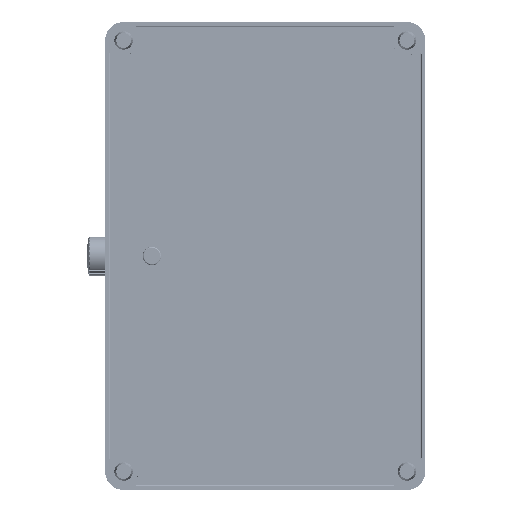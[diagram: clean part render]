
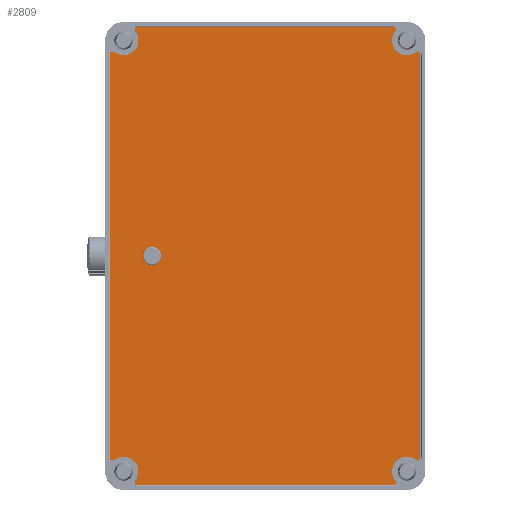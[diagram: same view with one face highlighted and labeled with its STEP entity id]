
A CAD part, top view. The second image highlights one B-rep face of the part: STEP entity #2809.
In plain terms, the highlighted planar face has unit normal (0, 0, 1).
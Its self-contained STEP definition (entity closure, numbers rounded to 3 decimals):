
#1429=DIRECTION('',(0.,1.,0.));
#1430=VECTOR('',#1429,330.472);
#1431=CARTESIAN_POINT('',(-406.905,494.301,344.));
#1432=LINE('',#1431,#1430);
#1476=CARTESIAN_POINT('',(-429.905,843.537,344.));
#1477=DIRECTION('',(0.,0.,-1.));
#1478=DIRECTION('',(0.745,0.667,0.));
#1479=AXIS2_PLACEMENT_3D('',#1476,#1477,#1478);
#1481=CARTESIAN_POINT('',(-429.905,843.537,344.));
#1482=DIRECTION('',(0.,0.,-1.));
#1483=DIRECTION('',(1.,0.,0.));
#1484=AXIS2_PLACEMENT_3D('',#1481,#1482,#1483);
#1486=CARTESIAN_POINT('',(-417.905,834.537,344.));
#1487=DIRECTION('',(0.,0.,1.));
#1488=DIRECTION('',(-0.8,0.6,0.));
#1489=AXIS2_PLACEMENT_3D('',#1486,#1487,#1488);
#1491=CARTESIAN_POINT('',(-417.905,834.537,344.));
#1492=DIRECTION('',(0.,0.,1.));
#1493=DIRECTION('',(-1.,0.,0.));
#1494=AXIS2_PLACEMENT_3D('',#1491,#1492,#1493);
#1496=CARTESIAN_POINT('',(-408.905,822.537,344.));
#1497=DIRECTION('',(0.,0.,-1.));
#1498=DIRECTION('',(-0.6,0.8,0.));
#1499=AXIS2_PLACEMENT_3D('',#1496,#1497,#1498);
#1501=CARTESIAN_POINT('',(-408.905,496.537,344.));
#1502=DIRECTION('',(0.,0.,-1.));
#1503=DIRECTION('',(0.667,-0.745,0.));
#1504=AXIS2_PLACEMENT_3D('',#1501,#1502,#1503);
#1506=CARTESIAN_POINT('',(-417.905,484.537,344.));
#1507=DIRECTION('',(0.,0.,1.));
#1508=DIRECTION('',(0.6,0.8,0.));
#1509=AXIS2_PLACEMENT_3D('',#1506,#1507,#1508);
#1511=CARTESIAN_POINT('',(-417.905,484.537,344.));
#1512=DIRECTION('',(0.,0.,1.));
#1513=DIRECTION('',(-1.,0.,0.));
#1514=AXIS2_PLACEMENT_3D('',#1511,#1512,#1513);
#1516=CARTESIAN_POINT('',(-429.905,475.537,344.));
#1517=DIRECTION('',(0.,0.,-1.));
#1518=DIRECTION('',(0.8,0.6,0.));
#1519=AXIS2_PLACEMENT_3D('',#1516,#1517,#1518);
#1521=CARTESIAN_POINT('',(-429.905,475.537,344.));
#1522=DIRECTION('',(0.,0.,-1.));
#1523=DIRECTION('',(1.,0.,0.));
#1524=AXIS2_PLACEMENT_3D('',#1521,#1522,#1523);
#1526=CARTESIAN_POINT('',(-635.905,475.537,344.));
#1527=DIRECTION('',(0.,0.,-1.));
#1528=DIRECTION('',(-0.745,-0.667,0.));
#1529=AXIS2_PLACEMENT_3D('',#1526,#1527,#1528);
#1531=CARTESIAN_POINT('',(-635.905,475.537,344.));
#1532=DIRECTION('',(0.,0.,-1.));
#1533=DIRECTION('',(-1.,0.,0.));
#1534=AXIS2_PLACEMENT_3D('',#1531,#1532,#1533);
#1536=CARTESIAN_POINT('',(-647.905,484.537,344.));
#1537=DIRECTION('',(0.,0.,1.));
#1538=DIRECTION('',(0.8,-0.6,0.));
#1539=AXIS2_PLACEMENT_3D('',#1536,#1537,#1538);
#1541=CARTESIAN_POINT('',(-647.905,484.537,344.));
#1542=DIRECTION('',(0.,0.,1.));
#1543=DIRECTION('',(1.,0.,0.));
#1544=AXIS2_PLACEMENT_3D('',#1541,#1542,#1543);
#1546=CARTESIAN_POINT('',(-656.905,496.537,344.));
#1547=DIRECTION('',(0.,0.,-1.));
#1548=DIRECTION('',(0.6,-0.8,0.));
#1549=AXIS2_PLACEMENT_3D('',#1546,#1547,#1548);
#1551=CARTESIAN_POINT('',(-656.905,822.537,344.));
#1552=DIRECTION('',(0.,0.,-1.));
#1553=DIRECTION('',(-0.667,0.745,0.));
#1554=AXIS2_PLACEMENT_3D('',#1551,#1552,#1553);
#1556=CARTESIAN_POINT('',(-647.905,834.537,344.));
#1557=DIRECTION('',(0.,0.,1.));
#1558=DIRECTION('',(-0.6,-0.8,0.));
#1559=AXIS2_PLACEMENT_3D('',#1556,#1557,#1558);
#1561=CARTESIAN_POINT('',(-647.905,834.537,344.));
#1562=DIRECTION('',(0.,0.,1.));
#1563=DIRECTION('',(1.,0.,0.));
#1564=AXIS2_PLACEMENT_3D('',#1561,#1562,#1563);
#1566=CARTESIAN_POINT('',(-635.905,843.537,344.));
#1567=DIRECTION('',(0.,0.,-1.));
#1568=DIRECTION('',(-0.8,-0.6,0.));
#1569=AXIS2_PLACEMENT_3D('',#1566,#1567,#1568);
#1571=CARTESIAN_POINT('',(-635.905,843.537,344.));
#1572=DIRECTION('',(0.,0.,-1.));
#1573=DIRECTION('',(-1.,0.,0.));
#1574=AXIS2_PLACEMENT_3D('',#1571,#1572,#1573);
#1576=CARTESIAN_POINT('',(-624.905,659.537,344.));
#1577=DIRECTION('',(0.,0.,1.));
#1578=DIRECTION('',(-1.,0.,0.));
#1579=AXIS2_PLACEMENT_3D('',#1576,#1577,#1578);
#1581=CARTESIAN_POINT('',(-624.905,659.537,344.));
#1582=DIRECTION('',(0.,0.,1.));
#1583=DIRECTION('',(1.,0.,0.));
#1584=AXIS2_PLACEMENT_3D('',#1581,#1582,#1583);
#1590=DIRECTION('',(-1.,0.,0.));
#1591=VECTOR('',#1590,210.472);
#1592=CARTESIAN_POINT('',(-427.669,845.537,344.));
#1593=LINE('',#1592,#1591);
#1747=DIRECTION('',(0.,-1.,0.));
#1748=VECTOR('',#1747,330.472);
#1749=CARTESIAN_POINT('',(-658.905,824.773,344.));
#1750=LINE('',#1749,#1748);
#1849=DIRECTION('',(1.,0.,0.));
#1850=VECTOR('',#1849,210.472);
#1851=CARTESIAN_POINT('',(-638.141,473.537,344.));
#1852=LINE('',#1851,#1850);
#2165=CARTESIAN_POINT('',(-406.905,494.301,344.));
#2166=CARTESIAN_POINT('',(-406.905,824.773,344.));
#2167=VERTEX_POINT('',#2165);
#2168=VERTEX_POINT('',#2166);
#2169=CARTESIAN_POINT('',(-427.669,845.537,344.));
#2170=CARTESIAN_POINT('',(-638.141,845.537,344.));
#2171=VERTEX_POINT('',#2169);
#2172=VERTEX_POINT('',#2170);
#2173=CARTESIAN_POINT('',(-426.905,843.537,344.));
#2174=VERTEX_POINT('',#2173);
#2175=CARTESIAN_POINT('',(-427.505,841.737,344.));
#2176=VERTEX_POINT('',#2175);
#2177=CARTESIAN_POINT('',(-429.905,834.537,344.));
#2178=VERTEX_POINT('',#2177);
#2179=CARTESIAN_POINT('',(-410.705,824.937,344.));
#2180=VERTEX_POINT('',#2179);
#2181=CARTESIAN_POINT('',(-410.705,494.137,344.));
#2182=VERTEX_POINT('',#2181);
#2183=CARTESIAN_POINT('',(-429.905,484.537,344.));
#2184=VERTEX_POINT('',#2183);
#2185=CARTESIAN_POINT('',(-427.505,477.337,344.));
#2186=VERTEX_POINT('',#2185);
#2187=CARTESIAN_POINT('',(-426.905,475.537,344.));
#2188=VERTEX_POINT('',#2187);
#2189=CARTESIAN_POINT('',(-427.669,473.537,344.));
#2190=VERTEX_POINT('',#2189);
#2191=CARTESIAN_POINT('',(-638.141,473.537,344.));
#2192=VERTEX_POINT('',#2191);
#2193=CARTESIAN_POINT('',(-638.905,475.537,344.));
#2194=VERTEX_POINT('',#2193);
#2195=CARTESIAN_POINT('',(-638.305,477.337,344.));
#2196=VERTEX_POINT('',#2195);
#2197=CARTESIAN_POINT('',(-635.905,484.537,344.));
#2198=VERTEX_POINT('',#2197);
#2199=CARTESIAN_POINT('',(-655.105,494.137,344.));
#2200=VERTEX_POINT('',#2199);
#2201=CARTESIAN_POINT('',(-658.905,494.301,344.));
#2202=VERTEX_POINT('',#2201);
#2203=CARTESIAN_POINT('',(-658.905,824.773,344.));
#2204=VERTEX_POINT('',#2203);
#2205=CARTESIAN_POINT('',(-655.105,824.937,344.));
#2206=VERTEX_POINT('',#2205);
#2207=CARTESIAN_POINT('',(-635.905,834.537,344.));
#2208=VERTEX_POINT('',#2207);
#2209=CARTESIAN_POINT('',(-638.305,841.737,344.));
#2210=VERTEX_POINT('',#2209);
#2211=CARTESIAN_POINT('',(-638.905,843.537,344.));
#2212=VERTEX_POINT('',#2211);
#2213=CARTESIAN_POINT('',(-629.905,659.537,344.));
#2214=CARTESIAN_POINT('',(-619.905,659.537,344.));
#2215=VERTEX_POINT('',#2213);
#2216=VERTEX_POINT('',#2214);
#2749=CARTESIAN_POINT('',(-402.905,849.537,344.));
#2750=DIRECTION('',(0.,0.,1.));
#2751=DIRECTION('',(1.,0.,0.));
#2752=AXIS2_PLACEMENT_3D('',#2749,#2750,#2751);
#2753=PLANE('',#2752);
#2755=ORIENTED_EDGE('',*,*,#2754,.F.);
#2757=ORIENTED_EDGE('',*,*,#2756,.T.);
#2759=ORIENTED_EDGE('',*,*,#2758,.T.);
#2761=ORIENTED_EDGE('',*,*,#2760,.T.);
#2763=ORIENTED_EDGE('',*,*,#2762,.T.);
#2765=ORIENTED_EDGE('',*,*,#2764,.T.);
#2766=ORIENTED_EDGE('',*,*,#2739,.F.);
#2768=ORIENTED_EDGE('',*,*,#2767,.T.);
#2770=ORIENTED_EDGE('',*,*,#2769,.T.);
#2772=ORIENTED_EDGE('',*,*,#2771,.T.);
#2774=ORIENTED_EDGE('',*,*,#2773,.T.);
#2776=ORIENTED_EDGE('',*,*,#2775,.T.);
#2778=ORIENTED_EDGE('',*,*,#2777,.F.);
#2780=ORIENTED_EDGE('',*,*,#2779,.T.);
#2782=ORIENTED_EDGE('',*,*,#2781,.T.);
#2784=ORIENTED_EDGE('',*,*,#2783,.T.);
#2786=ORIENTED_EDGE('',*,*,#2785,.T.);
#2788=ORIENTED_EDGE('',*,*,#2787,.T.);
#2790=ORIENTED_EDGE('',*,*,#2789,.F.);
#2792=ORIENTED_EDGE('',*,*,#2791,.T.);
#2794=ORIENTED_EDGE('',*,*,#2793,.T.);
#2796=ORIENTED_EDGE('',*,*,#2795,.T.);
#2798=ORIENTED_EDGE('',*,*,#2797,.T.);
#2800=ORIENTED_EDGE('',*,*,#2799,.T.);
#2801=EDGE_LOOP('',(#2755,#2757,#2759,#2761,#2763,#2765,#2766,#2768,#2770,#2772,
#2774,#2776,#2778,#2780,#2782,#2784,#2786,#2788,#2790,#2792,#2794,#2796,#2798,
#2800));
#2802=FACE_OUTER_BOUND('',#2801,.F.);
#2804=ORIENTED_EDGE('',*,*,#2803,.T.);
#2806=ORIENTED_EDGE('',*,*,#2805,.T.);
#2807=EDGE_LOOP('',(#2804,#2806));
#2808=FACE_BOUND('',#2807,.F.);
#2809=ADVANCED_FACE('',(#2802,#2808),#2753,.T.);
#1480=CIRCLE('',#1479,3.);
#1485=CIRCLE('',#1484,3.);
#1490=CIRCLE('',#1489,12.);
#1495=CIRCLE('',#1494,12.);
#1500=CIRCLE('',#1499,3.);
#1505=CIRCLE('',#1504,3.);
#1510=CIRCLE('',#1509,12.);
#1515=CIRCLE('',#1514,12.);
#1520=CIRCLE('',#1519,3.);
#1525=CIRCLE('',#1524,3.);
#1530=CIRCLE('',#1529,3.);
#1535=CIRCLE('',#1534,3.);
#1540=CIRCLE('',#1539,12.);
#1545=CIRCLE('',#1544,12.);
#1550=CIRCLE('',#1549,3.);
#1555=CIRCLE('',#1554,3.);
#1560=CIRCLE('',#1559,12.);
#1565=CIRCLE('',#1564,12.);
#1570=CIRCLE('',#1569,3.);
#1575=CIRCLE('',#1574,3.);
#1580=CIRCLE('',#1579,5.);
#1585=CIRCLE('',#1584,5.);
#2739=EDGE_CURVE('',#2167,#2168,#1432,.T.);
#2754=EDGE_CURVE('',#2171,#2172,#1593,.T.);
#2756=EDGE_CURVE('',#2171,#2174,#1480,.T.);
#2758=EDGE_CURVE('',#2174,#2176,#1485,.T.);
#2760=EDGE_CURVE('',#2176,#2178,#1490,.T.);
#2762=EDGE_CURVE('',#2178,#2180,#1495,.T.);
#2764=EDGE_CURVE('',#2180,#2168,#1500,.T.);
#2767=EDGE_CURVE('',#2167,#2182,#1505,.T.);
#2769=EDGE_CURVE('',#2182,#2184,#1510,.T.);
#2771=EDGE_CURVE('',#2184,#2186,#1515,.T.);
#2773=EDGE_CURVE('',#2186,#2188,#1520,.T.);
#2775=EDGE_CURVE('',#2188,#2190,#1525,.T.);
#2777=EDGE_CURVE('',#2192,#2190,#1852,.T.);
#2779=EDGE_CURVE('',#2192,#2194,#1530,.T.);
#2781=EDGE_CURVE('',#2194,#2196,#1535,.T.);
#2783=EDGE_CURVE('',#2196,#2198,#1540,.T.);
#2785=EDGE_CURVE('',#2198,#2200,#1545,.T.);
#2787=EDGE_CURVE('',#2200,#2202,#1550,.T.);
#2789=EDGE_CURVE('',#2204,#2202,#1750,.T.);
#2791=EDGE_CURVE('',#2204,#2206,#1555,.T.);
#2793=EDGE_CURVE('',#2206,#2208,#1560,.T.);
#2795=EDGE_CURVE('',#2208,#2210,#1565,.T.);
#2797=EDGE_CURVE('',#2210,#2212,#1570,.T.);
#2799=EDGE_CURVE('',#2212,#2172,#1575,.T.);
#2803=EDGE_CURVE('',#2215,#2216,#1580,.T.);
#2805=EDGE_CURVE('',#2216,#2215,#1585,.T.);
